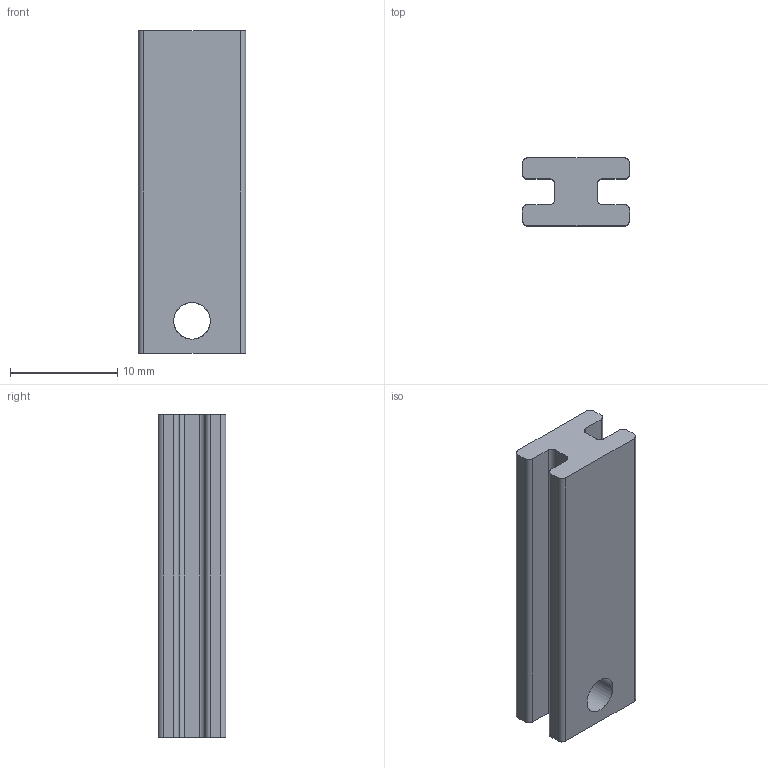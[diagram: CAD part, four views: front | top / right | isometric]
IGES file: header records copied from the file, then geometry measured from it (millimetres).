
Start section: SolidWorks IGES file using analytic representation for surfaces
Global section: file name: E:\Studium\I4.0\fts\Kleine Bauteile\fester.IGS; native system: SolidWorks 2013; preprocessor: SolidWorks 2013; author: Ludwig Jiawei Luo; date: 180202.213723; units: millimetre
Bounding box: 10 x 6.3 x 30 mm (x, y, z)
Surface area: 1410 mm2 (no closed solid volume)
Topology: 0 solids, 0 shells, 28 faces, 288 edges, 288 vertices
Faces by surface type: revolution 14, bspline 14
